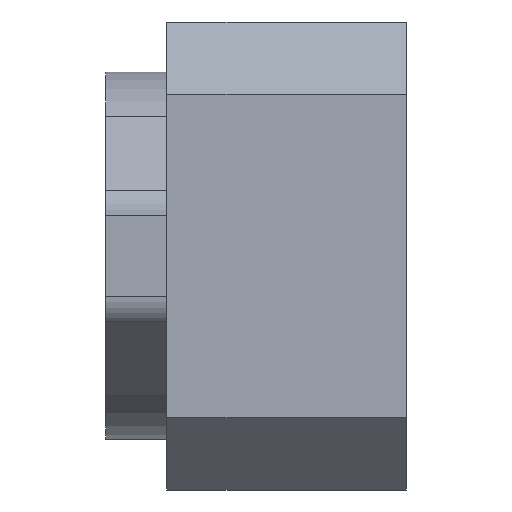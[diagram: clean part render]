
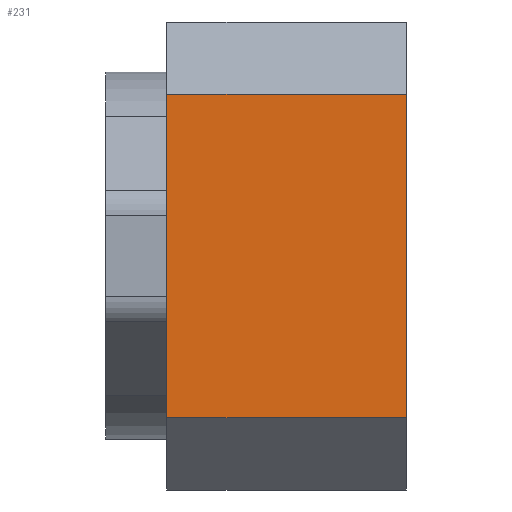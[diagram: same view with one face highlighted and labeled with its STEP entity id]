
A CAD part, left-side view. The second image highlights one B-rep face of the part: STEP entity #231.
In plain terms, the highlighted planar face has unit normal (-1, 0, 0).
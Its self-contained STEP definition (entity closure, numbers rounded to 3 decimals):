
#34 = CARTESIAN_POINT ( 'NONE',  ( -21., 0., 14.5 ) ) ;
#231 = ADVANCED_FACE ( 'NONE', ( #1135 ), #18630, .F. ) ;
#474 = VERTEX_POINT ( 'NONE', #13091 ) ;
#533 = DIRECTION ( 'NONE',  ( 0., 0., -1. ) ) ;
#916 = ORIENTED_EDGE ( 'NONE', *, *, #14566, .F. ) ;
#1054 = CARTESIAN_POINT ( 'NONE',  ( -21., 21.5, -14.5 ) ) ;
#1135 = FACE_OUTER_BOUND ( 'NONE', #17850, .T. ) ;
#1633 = LINE ( 'NONE', #1661, #18668 ) ;
#1661 = CARTESIAN_POINT ( 'NONE',  ( -21., 27., 14.5 ) ) ;
#1961 = CARTESIAN_POINT ( 'NONE',  ( -21., 21.5, 21. ) ) ;
#2030 = VERTEX_POINT ( 'NONE', #11512 ) ;
#3285 = CARTESIAN_POINT ( 'NONE',  ( -21., 0., 21. ) ) ;
#3331 = DIRECTION ( 'NONE',  ( 0., 1., 0. ) ) ;
#4165 = ORIENTED_EDGE ( 'NONE', *, *, #17125, .T. ) ;
#6534 = LINE ( 'NONE', #3285, #14811 ) ;
#7851 = LINE ( 'NONE', #17187, #20512 ) ;
#8213 = LINE ( 'NONE', #1961, #21348 ) ;
#8644 = AXIS2_PLACEMENT_3D ( 'NONE', #8772, #10448, #533 ) ;
#8772 = CARTESIAN_POINT ( 'NONE',  ( -21., 27., 21. ) ) ;
#10448 = DIRECTION ( 'NONE',  ( 1., 0., 0. ) ) ;
#11194 = ORIENTED_EDGE ( 'NONE', *, *, #17669, .T. ) ;
#11512 = CARTESIAN_POINT ( 'NONE',  ( -21., 0., -14.5 ) ) ;
#13091 = CARTESIAN_POINT ( 'NONE',  ( -21., 21.5, 14.5 ) ) ;
#13135 = DIRECTION ( 'NONE',  ( 0., 0., 1. ) ) ;
#13482 = DIRECTION ( 'NONE',  ( 0., 0., 1. ) ) ;
#13875 = VERTEX_POINT ( 'NONE', #1054 ) ;
#14566 = EDGE_CURVE ( 'NONE', #13875, #474, #8213, .T. ) ;
#14811 = VECTOR ( 'NONE', #13135, 1000. ) ;
#15596 = DIRECTION ( 'NONE',  ( 0., -1., 0. ) ) ;
#16118 = ORIENTED_EDGE ( 'NONE', *, *, #17356, .T. ) ;
#17125 = EDGE_CURVE ( 'NONE', #2030, #17153, #6534, .T. ) ;
#17153 = VERTEX_POINT ( 'NONE', #34 ) ;
#17187 = CARTESIAN_POINT ( 'NONE',  ( -21., 27., -14.5 ) ) ;
#17356 = EDGE_CURVE ( 'NONE', #13875, #2030, #7851, .T. ) ;
#17669 = EDGE_CURVE ( 'NONE', #17153, #474, #1633, .T. ) ;
#17850 = EDGE_LOOP ( 'NONE', ( #916, #16118, #4165, #11194 ) ) ;
#18630 = PLANE ( 'NONE',  #8644 ) ;
#18668 = VECTOR ( 'NONE', #3331, 1000. ) ;
#20512 = VECTOR ( 'NONE', #15596, 1000. ) ;
#21348 = VECTOR ( 'NONE', #13482, 1000. ) ;
